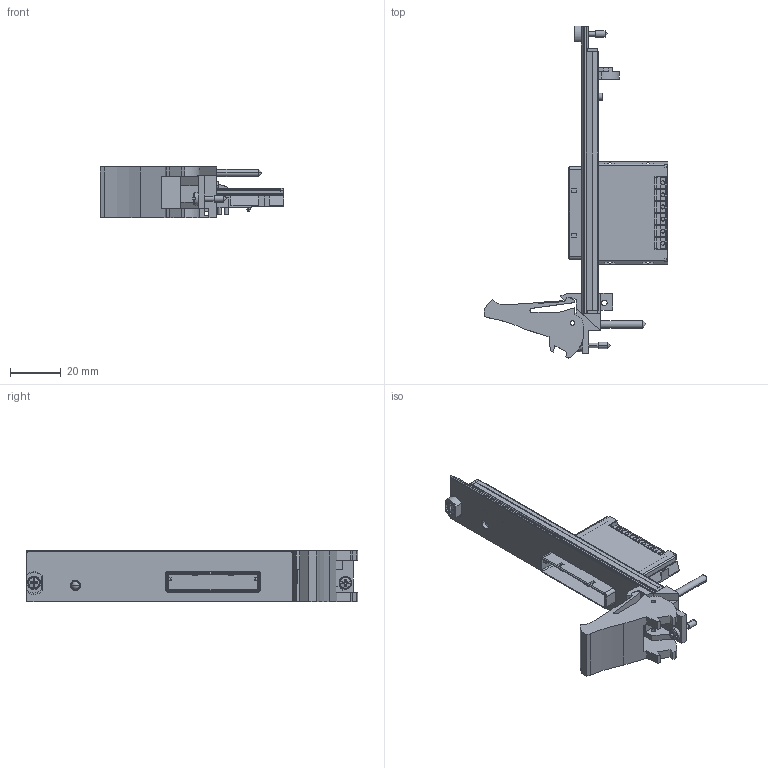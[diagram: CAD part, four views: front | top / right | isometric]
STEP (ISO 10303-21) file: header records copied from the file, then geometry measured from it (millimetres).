
FILE_DESCRIPTION((''),'2;1');
FILE_NAME('CU_PXIE-8381','2013-07-18T',('talbott'),(''),'PRO/ENGINEER BY PARAMETRIC TECHNOLOGY CORPORATION, 2011490','PRO/ENGINEER BY PARAMETRIC TECHNOLOGY CORPORATION, 2011490','');
FILE_SCHEMA(('CONFIG_CONTROL_DESIGN'));
Length unit declared in the file: inch
Products named in the file (1): CU_PXIE-8381
Bounding box: 72.02 x 130.5 x 20.31 mm (x, y, z)
Surface area: 23729.2 mm2 (no closed solid volume)
Topology: 0 solids, 16 shells, 552 faces, 1791 edges, 1217 vertices
Faces by surface type: plane 365, cylinder 161, cone 16, sphere 6, torus 4
Entity records: 20005 total; most frequent: CARTESIAN_POINT 4272, DIRECTION 3210, ORIENTED_EDGE 3099, EDGE_CURVE 1785, VECTOR 1326, LINE 1326, VERTEX_POINT 1217, AXIS2_PLACEMENT_3D 942
